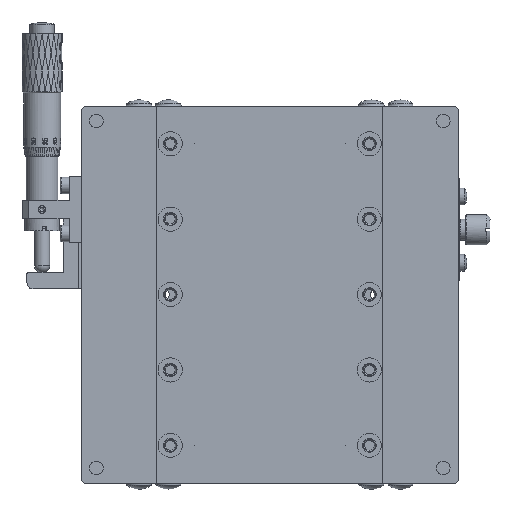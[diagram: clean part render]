
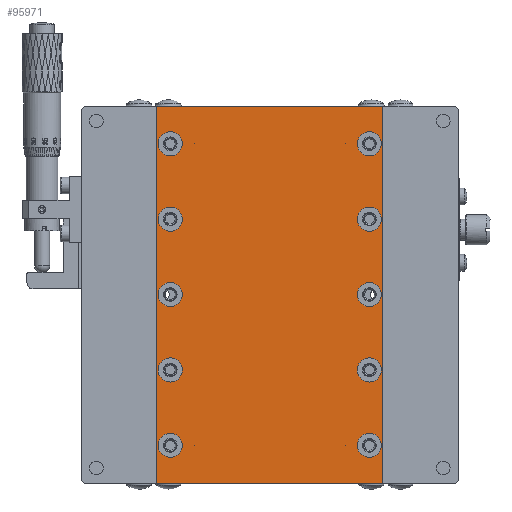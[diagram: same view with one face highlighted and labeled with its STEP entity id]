
A CAD part, front view. The second image highlights one B-rep face of the part: STEP entity #95971.
In plain terms, the highlighted planar face has unit normal (0, -1, 0).
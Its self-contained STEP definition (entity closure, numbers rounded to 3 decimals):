
#646 = VERTEX_POINT ( 'NONE', #22157 ) ;
#1007 = EDGE_CURVE ( 'NONE', #57016, #57016, #79277, .T. ) ;
#3075 = EDGE_CURVE ( 'NONE', #63384, #63384, #92139, .T. ) ;
#4322 = EDGE_CURVE ( 'NONE', #37370, #37370, #85958, .T. ) ;
#4395 = AXIS2_PLACEMENT_3D ( 'NONE', #41462, #36054, #65903 ) ;
#4678 = CIRCLE ( 'NONE', #59328, 4. ) ;
#5002 = DIRECTION ( 'NONE',  ( 0., -1., 0. ) ) ;
#5275 = VERTEX_POINT ( 'NONE', #24434 ) ;
#6537 = CARTESIAN_POINT ( 'NONE',  ( 115.959, -10.215, -43.047 ) ) ;
#7715 = FACE_OUTER_BOUND ( 'NONE', #58459, .T. ) ;
#8195 = VECTOR ( 'NONE', #19401, 1000. ) ;
#8213 = VERTEX_POINT ( 'NONE', #30675 ) ;
#8806 = ORIENTED_EDGE ( 'NONE', *, *, #62133, .F. ) ;
#9419 = VERTEX_POINT ( 'NONE', #52945 ) ;
#10410 = VERTEX_POINT ( 'NONE', #17187 ) ;
#11741 = EDGE_LOOP ( 'NONE', ( #92645 ) ) ;
#11868 = LINE ( 'NONE', #86172, #38543 ) ;
#12395 = DIRECTION ( 'NONE',  ( 0., 0., 1. ) ) ;
#13153 = FACE_BOUND ( 'NONE', #15489, .T. ) ;
#13172 = ORIENTED_EDGE ( 'NONE', *, *, #39052, .T. ) ;
#13625 = FACE_BOUND ( 'NONE', #69317, .T. ) ;
#13687 = AXIS2_PLACEMENT_3D ( 'NONE', #69574, #77397, #25102 ) ;
#15238 = EDGE_LOOP ( 'NONE', ( #35549 ) ) ;
#15489 = EDGE_LOOP ( 'NONE', ( #78175 ) ) ;
#16624 = ORIENTED_EDGE ( 'NONE', *, *, #20290, .F. ) ;
#17187 = CARTESIAN_POINT ( 'NONE',  ( 120.459, -10.215, 44.453 ) ) ;
#18705 = CARTESIAN_POINT ( 'NONE',  ( 45.459, -10.215, -80.547 ) ) ;
#19401 = DIRECTION ( 'NONE',  ( -1., 0., 0. ) ) ;
#19650 = VERTEX_POINT ( 'NONE', #25539 ) ;
#19863 = CARTESIAN_POINT ( 'NONE',  ( 115.959, -10.215, -14.047 ) ) ;
#20140 = CARTESIAN_POINT ( 'NONE',  ( 49.959, -10.215, 6.953 ) ) ;
#20290 = EDGE_CURVE ( 'NONE', #77942, #77942, #88037, .T. ) ;
#21894 = FACE_BOUND ( 'NONE', #22009, .T. ) ;
#22009 = EDGE_LOOP ( 'NONE', ( #38340 ) ) ;
#22157 = CARTESIAN_POINT ( 'NONE',  ( 49.959, -10.215, -14.047 ) ) ;
#23038 = DIRECTION ( 'NONE',  ( 0., 0., 1. ) ) ;
#23083 = AXIS2_PLACEMENT_3D ( 'NONE', #36386, #59875, #66232 ) ;
#23432 = AXIS2_PLACEMENT_3D ( 'NONE', #52261, #93987, #12395 ) ;
#23594 = DIRECTION ( 'NONE',  ( 0., 0., 1. ) ) ;
#24434 = CARTESIAN_POINT ( 'NONE',  ( 45.459, -10.215, 44.453 ) ) ;
#24570 = CARTESIAN_POINT ( 'NONE',  ( 49.959, -10.215, 35.953 ) ) ;
#24572 = DIRECTION ( 'NONE',  ( 0., 0., 1. ) ) ;
#25102 = DIRECTION ( 'NONE',  ( 0., 0., 1. ) ) ;
#25539 = CARTESIAN_POINT ( 'NONE',  ( 49.959, -10.215, -64.047 ) ) ;
#26116 = AXIS2_PLACEMENT_3D ( 'NONE', #96352, #65623, #23038 ) ;
#28443 = DIRECTION ( 'NONE',  ( 0., 0., 1. ) ) ;
#28766 = FACE_BOUND ( 'NONE', #38706, .T. ) ;
#29021 = CIRCLE ( 'NONE', #75850, 4. ) ;
#30531 = DIRECTION ( 'NONE',  ( 0., 0., 1. ) ) ;
#30675 = CARTESIAN_POINT ( 'NONE',  ( 115.959, -10.215, -64.047 ) ) ;
#30814 = CIRCLE ( 'NONE', #23083, 4. ) ;
#31953 = EDGE_CURVE ( 'NONE', #41196, #5275, #84691, .T. ) ;
#35549 = ORIENTED_EDGE ( 'NONE', *, *, #43446, .F. ) ;
#36054 = DIRECTION ( 'NONE',  ( 0., -1., 0. ) ) ;
#36058 = CARTESIAN_POINT ( 'NONE',  ( 45.459, -10.215, -80.547 ) ) ;
#36386 = CARTESIAN_POINT ( 'NONE',  ( 115.959, -10.215, -68.047 ) ) ;
#36555 = FACE_BOUND ( 'NONE', #37725, .T. ) ;
#37017 = FACE_BOUND ( 'NONE', #15238, .T. ) ;
#37364 = DIRECTION ( 'NONE',  ( 0., -1., 0. ) ) ;
#37370 = VERTEX_POINT ( 'NONE', #73120 ) ;
#37725 = EDGE_LOOP ( 'NONE', ( #16624 ) ) ;
#38032 = AXIS2_PLACEMENT_3D ( 'NONE', #6537, #57398, #88157 ) ;
#38071 = ORIENTED_EDGE ( 'NONE', *, *, #3075, .F. ) ;
#38340 = ORIENTED_EDGE ( 'NONE', *, *, #76245, .F. ) ;
#38543 = VECTOR ( 'NONE', #64167, 1000. ) ;
#38706 = EDGE_LOOP ( 'NONE', ( #60308 ) ) ;
#39052 = EDGE_CURVE ( 'NONE', #10410, #5275, #11868, .T. ) ;
#39212 = EDGE_LOOP ( 'NONE', ( #44286 ) ) ;
#39918 = CARTESIAN_POINT ( 'NONE',  ( 49.959, -10.215, 10.953 ) ) ;
#40477 = EDGE_CURVE ( 'NONE', #8213, #8213, #30814, .T. ) ;
#41196 = VERTEX_POINT ( 'NONE', #36058 ) ;
#41462 = CARTESIAN_POINT ( 'NONE',  ( 115.959, -10.215, -18.047 ) ) ;
#42832 = LINE ( 'NONE', #86368, #8195 ) ;
#43446 = EDGE_CURVE ( 'NONE', #76609, #76609, #96116, .T. ) ;
#44286 = ORIENTED_EDGE ( 'NONE', *, *, #4322, .F. ) ;
#45605 = VERTEX_POINT ( 'NONE', #24570 ) ;
#48266 = EDGE_LOOP ( 'NONE', ( #70136 ) ) ;
#50764 = FACE_BOUND ( 'NONE', #54764, .T. ) ;
#51707 = FACE_BOUND ( 'NONE', #48266, .T. ) ;
#52120 = DIRECTION ( 'NONE',  ( 0., 0., 1. ) ) ;
#52261 = CARTESIAN_POINT ( 'NONE',  ( 115.959, -10.215, 6.953 ) ) ;
#52597 = EDGE_CURVE ( 'NONE', #77309, #10410, #96103, .T. ) ;
#52666 = ORIENTED_EDGE ( 'NONE', *, *, #79411, .F. ) ;
#52945 = CARTESIAN_POINT ( 'NONE',  ( 49.959, -10.215, -39.047 ) ) ;
#54764 = EDGE_LOOP ( 'NONE', ( #52666 ) ) ;
#55506 = VECTOR ( 'NONE', #52120, 1000. ) ;
#55758 = CIRCLE ( 'NONE', #26116, 4. ) ;
#57016 = VERTEX_POINT ( 'NONE', #19863 ) ;
#57398 = DIRECTION ( 'NONE',  ( 0., -1., 0. ) ) ;
#58459 = EDGE_LOOP ( 'NONE', ( #13172, #80415, #8806, #82836 ) ) ;
#58589 = CARTESIAN_POINT ( 'NONE',  ( 45.459, -10.215, -80.547 ) ) ;
#58874 = VECTOR ( 'NONE', #24572, 1000. ) ;
#59328 = AXIS2_PLACEMENT_3D ( 'NONE', #75408, #83247, #23594 ) ;
#59875 = DIRECTION ( 'NONE',  ( 0., -1., 0. ) ) ;
#60308 = ORIENTED_EDGE ( 'NONE', *, *, #40477, .F. ) ;
#60534 = CIRCLE ( 'NONE', #13687, 4. ) ;
#61111 = DIRECTION ( 'NONE',  ( 0., -1., 0. ) ) ;
#62133 = EDGE_CURVE ( 'NONE', #77309, #41196, #42832, .T. ) ;
#63384 = VERTEX_POINT ( 'NONE', #93167 ) ;
#64167 = DIRECTION ( 'NONE',  ( -1., 0., 0. ) ) ;
#64955 = DIRECTION ( 'NONE',  ( 0., 1., 0. ) ) ;
#65457 = FACE_BOUND ( 'NONE', #39212, .T. ) ;
#65623 = DIRECTION ( 'NONE',  ( 0., -1., 0. ) ) ;
#65903 = DIRECTION ( 'NONE',  ( 0., 0., 1. ) ) ;
#66232 = DIRECTION ( 'NONE',  ( 0., 0., 1. ) ) ;
#66873 = PLANE ( 'NONE',  #73436 ) ;
#67243 = CARTESIAN_POINT ( 'NONE',  ( 120.459, -10.215, -80.547 ) ) ;
#68905 = CARTESIAN_POINT ( 'NONE',  ( 49.959, -10.215, -18.047 ) ) ;
#69317 = EDGE_LOOP ( 'NONE', ( #38071 ) ) ;
#69574 = CARTESIAN_POINT ( 'NONE',  ( 49.959, -10.215, -43.047 ) ) ;
#70136 = ORIENTED_EDGE ( 'NONE', *, *, #1007, .F. ) ;
#73120 = CARTESIAN_POINT ( 'NONE',  ( 115.959, -10.215, 35.953 ) ) ;
#73436 = AXIS2_PLACEMENT_3D ( 'NONE', #58589, #64955, #74186 ) ;
#73645 = CARTESIAN_POINT ( 'NONE',  ( 120.459, -10.215, -80.547 ) ) ;
#74186 = DIRECTION ( 'NONE',  ( 0., 0., 1. ) ) ;
#75408 = CARTESIAN_POINT ( 'NONE',  ( 49.959, -10.215, -68.047 ) ) ;
#75850 = AXIS2_PLACEMENT_3D ( 'NONE', #68905, #61111, #83570 ) ;
#76245 = EDGE_CURVE ( 'NONE', #646, #646, #29021, .T. ) ;
#76609 = VERTEX_POINT ( 'NONE', #39918 ) ;
#77309 = VERTEX_POINT ( 'NONE', #67243 ) ;
#77397 = DIRECTION ( 'NONE',  ( 0., -1., 0. ) ) ;
#77942 = VERTEX_POINT ( 'NONE', #93051 ) ;
#78143 = AXIS2_PLACEMENT_3D ( 'NONE', #89690, #37364, #30531 ) ;
#78175 = ORIENTED_EDGE ( 'NONE', *, *, #80357, .F. ) ;
#78993 = AXIS2_PLACEMENT_3D ( 'NONE', #20140, #5002, #28443 ) ;
#79277 = CIRCLE ( 'NONE', #4395, 4. ) ;
#79411 = EDGE_CURVE ( 'NONE', #45605, #45605, #55758, .T. ) ;
#80357 = EDGE_CURVE ( 'NONE', #9419, #9419, #60534, .T. ) ;
#80415 = ORIENTED_EDGE ( 'NONE', *, *, #31953, .F. ) ;
#82836 = ORIENTED_EDGE ( 'NONE', *, *, #52597, .T. ) ;
#83247 = DIRECTION ( 'NONE',  ( 0., -1., 0. ) ) ;
#83570 = DIRECTION ( 'NONE',  ( 0., 0., 1. ) ) ;
#84691 = LINE ( 'NONE', #18705, #58874 ) ;
#85958 = CIRCLE ( 'NONE', #78143, 4. ) ;
#86172 = CARTESIAN_POINT ( 'NONE',  ( 45.459, -10.215, 44.453 ) ) ;
#86183 = EDGE_CURVE ( 'NONE', #19650, #19650, #4678, .T. ) ;
#86368 = CARTESIAN_POINT ( 'NONE',  ( 45.459, -10.215, -80.547 ) ) ;
#88037 = CIRCLE ( 'NONE', #38032, 4. ) ;
#88157 = DIRECTION ( 'NONE',  ( 0., 0., 1. ) ) ;
#89690 = CARTESIAN_POINT ( 'NONE',  ( 115.959, -10.215, 31.953 ) ) ;
#92139 = CIRCLE ( 'NONE', #23432, 4. ) ;
#92645 = ORIENTED_EDGE ( 'NONE', *, *, #86183, .F. ) ;
#93051 = CARTESIAN_POINT ( 'NONE',  ( 115.959, -10.215, -39.047 ) ) ;
#93167 = CARTESIAN_POINT ( 'NONE',  ( 115.959, -10.215, 10.953 ) ) ;
#93987 = DIRECTION ( 'NONE',  ( 0., -1., 0. ) ) ;
#95716 = FACE_BOUND ( 'NONE', #11741, .T. ) ;
#95971 = ADVANCED_FACE ( 'NONE', ( #36555, #13625, #50764, #21894, #95716, #7715, #13153, #37017, #65457, #51707, #28766 ), #66873, .F. ) ;
#96103 = LINE ( 'NONE', #73645, #55506 ) ;
#96116 = CIRCLE ( 'NONE', #78993, 4. ) ;
#96352 = CARTESIAN_POINT ( 'NONE',  ( 49.959, -10.215, 31.953 ) ) ;
